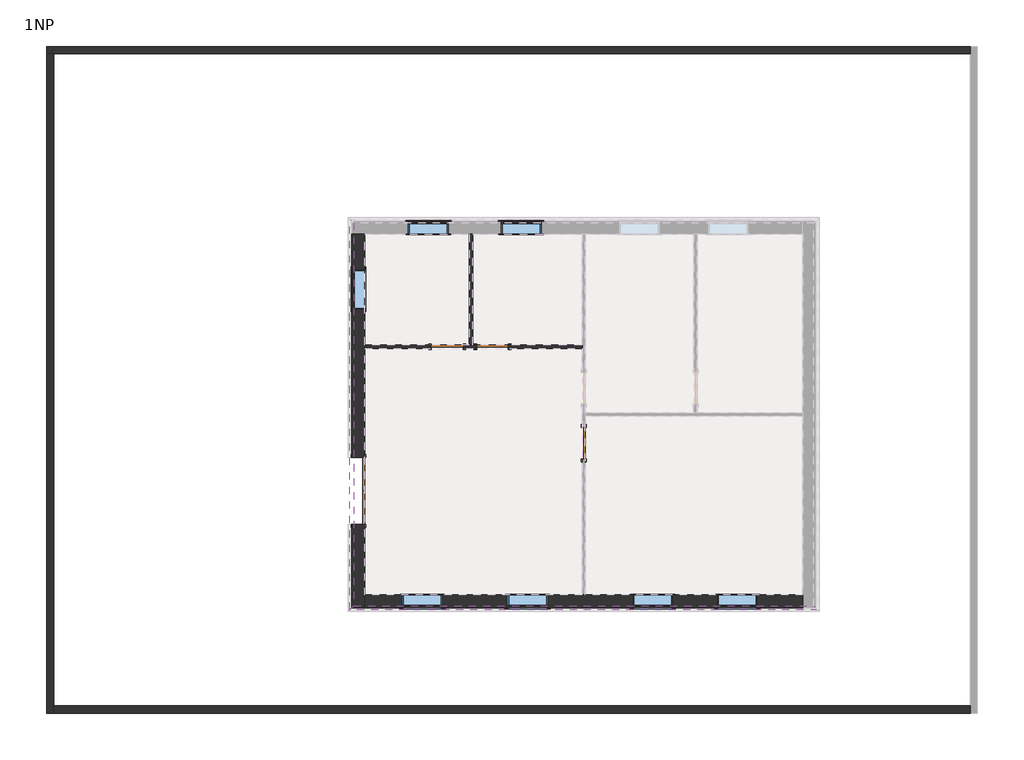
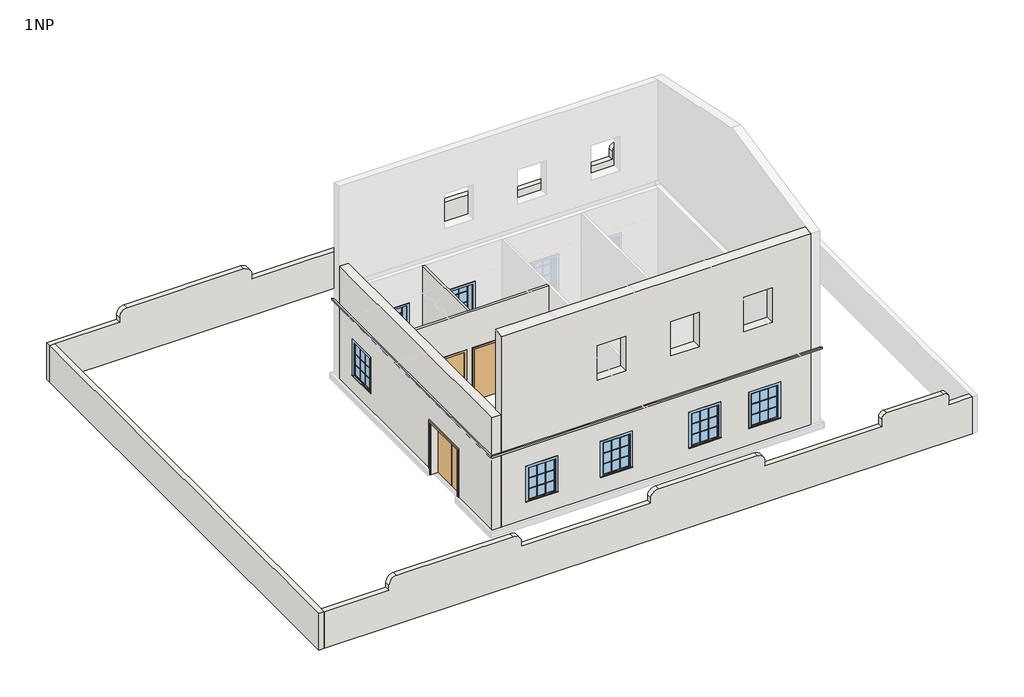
# One storey, part 1 of 2: 7 walls, 7 windows, 4 doors, 2 proxies.
"""IFC4 building model written with IfcOpenShell, lengths in millimetres."""

from ifc_helpers import new_model, si_unit, point, frame, frame_2d, origin, origin_with_axes, place, context, project, spatial, polyline, circle_curve, trimmed, segment, composite_curve, outline, extrude, faceted_brep, transform, mapped, element, save
from ifc_brep_helpers import plane_surface, cylinder_surface, advanced_brep
from components import m_double_flush_1830_x_2134mm_224c2c1d, m_single_flush_0864_x_2134mm_2f1c7364, m_single_flush_0864_x_2134mm_ac23343d, m_casement_3x3_with_trim_1100_x_1400mm_61373874

model = new_model("IFC4")

# Units and contexts
model_context = context("Model", 3, world=origin())
ifc_project = project(units=[si_unit("LENGTHUNIT", "METRE", prefix="MILLI")], contexts=[model_context])

# Site, building, storey
site = spatial("IfcSite", under=ifc_project)
building = spatial("IfcBuilding", under=site)
storey = spatial("IfcBuildingStorey", under=building, Name="1NP", Elevation=0.0)

# Proxies
placement = place(None, origin())
element("IfcBuildingElementProxy", 1, Name="Reveals", at=placement, inside=storey, context=model_context, shape_type="SweptSolid", body=[
    extrude(outline(polyline([(7810.3965437, -5113.8644596), (7912.8965437, -5216.3644596), (-4852.1034563, -5216.3644596), (-4749.6034563, -5113.8644596), (7810.3965437, -5113.8644596)])), frame((0.0, 0.0, 3200.0), z_axis=(0.0, 0.0, 1.0), x_axis=(1.0, 0.0, 0.0)), (0.0, 0.0, 1.0), 75.0),
])
element("IfcBuildingElementProxy", 2, Name="Reveals", at=placement, inside=storey, context=model_context, shape_type="SweptSolid", body=[
    extrude(outline(polyline([(-4749.6034563, -5113.8644596), (-4852.1034563, -5216.3644596), (-4852.1034563, 5448.6355404), (-4749.6034563, 5346.1355404), (-4749.6034563, -5113.8644596)])), frame((0.0, 0.0, 3200.0), z_axis=(0.0, 0.0, 1.0), x_axis=(1.0, 0.0, 0.0)), (0.0, 0.0, 1.0), 75.0),
])

# Doors
m_double_flush_1830_x_2134mm_shape = m_double_flush_1830_x_2134mm_224c2c1d(model_context)
element("IfcDoor", 3, ObjectType="M_Double-Flush : 1830 x 2134mm", at=placement, inside=storey, context=model_context, shape_type="MappedRepresentation", body=[
    mapped(m_double_flush_1830_x_2134mm_shape, transform((-4619.6034563, -1968.8644596, 0.0), x_axis=(0.0, -1.0, 0.0), y_axis=(1.0, 0.0, 0.0), z_axis=(0.0, 0.0, 1.0))),
])
m_single_flush_0864_x_2134mm_shape = m_single_flush_0864_x_2134mm_2f1c7364(model_context)
element("IfcDoor", 4, ObjectType="M_Single-Flush : 0864 x 2134mm", at=placement, inside=storey, context=model_context, shape_type="MappedRepresentation", body=[
    mapped(m_single_flush_0864_x_2134mm_shape, transform((-2194.3854659, 1966.1355404, 0.0), x_axis=(1.0, 0.0, 0.0), y_axis=(0.0, 1.0, 0.0), z_axis=(0.0, 0.0, 1.0))),
])
m_single_flush_0864_x_2134mm_2_shape = m_single_flush_0864_x_2134mm_ac23343d(model_context)
element("IfcDoor", 5, ObjectType="M_Single-Flush : 0864 x 2134mm", at=placement, inside=storey, context=model_context, shape_type="MappedRepresentation", body=[
    mapped(m_single_flush_0864_x_2134mm_2_shape, transform((1530.3965437, -665.8644596, 0.0), x_axis=(0.0, 1.0, 0.0), y_axis=(-1.0, 0.0, 0.0), z_axis=(0.0, 0.0, 1.0))),
])
element("IfcDoor", 6, ObjectType="M_Single-Flush : 0864 x 2134mm", at=placement, inside=storey, context=model_context, shape_type="MappedRepresentation", body=[
    mapped(m_single_flush_0864_x_2134mm_2_shape, transform((-962.6034563, 1966.1355404, 0.0), x_axis=(-1.0, 0.0, 0.0), y_axis=(0.0, -1.0, 0.0), z_axis=(0.0, 0.0, 1.0))),
])

# Walls
element("IfcWall", 7, ObjectType="Exterior - Brick on Mtl. Stud se základem", at=placement, inside=storey, context=model_context, shape_type="Brep", body=[
    faceted_brep([(-4444.6034563, 5041.1355404, 4800.0), (-4444.6034563, -5158.8644596, 4800.0), (-4444.6034563, -5158.8644596, 3275.0), (-4444.6034563, -5113.8644596, 3275.0), (-4444.6034563, -5113.8644596, 3200.0), (-4444.6034563, -5158.8644596, 3200.0), (-4444.6034563, -5158.8644596, 225.0), (-4444.6034563, -5158.8644596, 0.0), (-4444.6034563, -4808.8644596, 0.0), (-4444.6034563, -2883.8644596, 0.0), (-4444.6034563, -2883.8644596, 2134.0), (-4444.6034563, -1053.8644596, 2134.0), (-4444.6034563, -1053.8644596, 0.0), (-4444.6034563, 1921.1355404, 0.0), (-4444.6034563, 2011.1355404, 0.0), (-4444.6034563, 5041.1355404, 0.0), (-4444.6034563, 5041.1355404, 3700.0), (-4444.6034563, 2011.1355404, 3700.0), (-4444.6034563, 1921.1355404, 3700.0), (-4444.6034563, -4808.8644596, 3700.0), (-4444.6034563, -4973.8644596, 3700.0), (-4444.6034563, -4973.8644596, 4000.0), (-4444.6034563, -4808.8644596, 4000.0), (-4444.6034563, 5041.1355404, 4000.0), (-4444.6034563, 4078.6355404, 2315.0), (-4444.6034563, 4078.6355404, 915.0), (-4444.6034563, 2978.6355404, 915.0), (-4444.6034563, 2978.6355404, 2315.0), (-4794.6034563, -5158.8644596, 4800.0), (-4794.6034563, 5041.1355404, 4800.0), (-4794.6034563, 5041.1355404, 3275.0), (-4794.6034563, -5158.8644596, 3275.0), (-4794.6034563, -1053.8644596, 2134.0), (-4794.6034563, -2883.8644596, 2134.0), (-4794.6034563, -2883.8644596, 225.0), (-4794.6034563, -2883.8644596, 0.0), (-4794.6034563, -5158.8644596, 0.0), (-4794.6034563, -5158.8644596, 225.0), (-4794.6034563, -5158.8644596, 3200.0), (-4794.6034563, 5041.1355404, 3200.0), (-4794.6034563, 5041.1355404, 225.0), (-4794.6034563, 5041.1355404, 0.0), (-4794.6034563, -1053.8644596, 0.0), (-4794.6034563, -1053.8644596, 225.0), (-4794.6034563, 4078.6355404, 915.0), (-4794.6034563, 4078.6355404, 2315.0), (-4794.6034563, 2978.6355404, 2315.0), (-4794.6034563, 2978.6355404, 915.0), (-4749.6034563, 5041.1355404, 3200.0), (-4749.6034563, 5041.1355404, 3275.0), (-4609.6034563, 5041.1355404, 4000.0), (-4609.6034563, 5041.1355404, 3700.0), (-4609.6034563, -4973.8644596, 3700.0), (-4609.6034563, -4973.8644596, 4000.0), (-4749.6034563, -5113.8644596, 3275.0), (-4749.6034563, -5113.8644596, 3200.0)], [[[0, 1, 2, 3, 4, 5, 6, 7, 8, 9, 10, 11, 12, 13, 14, 15, 16, 17, 18, 19, 20, 21, 22, 23], [24, 25, 26, 27]], [[28, 29, 30, 31]], [[32, 33, 34, 35, 36, 37, 38, 39, 40, 41, 42, 43], [44, 45, 46, 47]], [[7, 36, 35, 9, 8]], [[41, 15, 14, 13, 12, 42]], [[1, 0, 29, 28]], [[1, 28, 31, 2]], [[36, 7, 6, 5, 38, 37]], [[15, 41, 40, 39, 48, 49, 30, 29, 0, 23, 50, 51, 16]], [[10, 9, 35, 34, 33]], [[11, 10, 33, 32]], [[12, 11, 32, 43, 42]], [[25, 24, 45, 44]], [[26, 25, 44, 47]], [[27, 26, 47, 46]], [[24, 27, 46, 45]], [[51, 52, 20, 19, 18, 17, 16]], [[21, 53, 50, 23, 22]], [[52, 53, 21, 20]], [[53, 52, 51, 50]], [[49, 54, 3, 2, 31, 30]], [[4, 55, 48, 39, 38, 5]], [[54, 55, 4, 3]], [[55, 54, 49, 48]]]),
])
element("IfcWall", 8, ObjectType="Exterior - Brick on Mtl. Stud se základem", at=placement, inside=storey, context=model_context, shape_type="Brep", body=[
    faceted_brep([(7505.3965437, -4808.8644596, 0.0), (1575.3965437, -4808.8644596, 0.0), (1485.3965437, -4808.8644596, 0.0), (-4444.6034563, -4808.8644596, 0.0), (-4444.6034563, -4808.8644596, 3700.0), (1485.3965437, -4808.8644596, 3700.0), (1575.3965437, -4808.8644596, 3700.0), (7505.3965437, -4808.8644596, 3700.0), (-3426.4827755, -4808.8644596, 2315.0), (-3426.4827755, -4808.8644596, 915.0), (-2326.4827755, -4808.8644596, 915.0), (-2326.4827755, -4808.8644596, 2315.0), (-551.4827755, -4808.8644596, 2315.0), (-551.4827755, -4808.8644596, 915.0), (548.5172245, -4808.8644596, 915.0), (548.5172245, -4808.8644596, 2315.0), (2862.144816, -4808.8644596, 2315.0), (2862.144816, -4808.8644596, 915.0), (3962.144816, -4808.8644596, 915.0), (3962.144816, -4808.8644596, 2315.0), (5167.8310203, -4808.8644596, 2315.0), (5167.8310203, -4808.8644596, 915.0), (6267.8310203, -4808.8644596, 915.0), (6267.8310203, -4808.8644596, 2315.0), (-4444.6034563, -4808.8644596, 8074.3947966), (555.3965437, -4808.8644596, 8074.3947966), (655.3965437, -4808.8644596, 8074.3947966), (3655.3965437, -4808.8644596, 8074.3947966), (3755.3965437, -4808.8644596, 8074.3947966), (7505.3965437, -4808.8644596, 8074.3947966), (7505.3965437, -4808.8644596, 4000.0), (3755.3965437, -4808.8644596, 4000.0), (3655.3965437, -4808.8644596, 4000.0), (655.3965437, -4808.8644596, 4000.0), (555.3965437, -4808.8644596, 4000.0), (-4444.6034563, -4808.8644596, 4000.0), (-727.1034563, -4808.8644596, 6315.0), (-727.1034563, -4808.8644596, 4915.0), (372.8965437, -4808.8644596, 4915.0), (372.8965437, -4808.8644596, 6315.0), (2097.8965437, -4808.8644596, 6315.0), (2097.8965437, -4808.8644596, 4915.0), (3197.8965437, -4808.8644596, 4915.0), (3197.8965437, -4808.8644596, 6315.0), (4922.8965437, -4808.8644596, 6315.0), (4922.8965437, -4808.8644596, 4915.0), (6022.8965437, -4808.8644596, 4915.0), (6022.8965437, -4808.8644596, 6315.0), (-4444.6034563, -5158.8644596, 0.0), (7505.3965437, -5158.8644596, 0.0), (7505.3965437, -5158.8644596, 225.0), (7505.3965437, -5158.8644596, 3200.0), (-4444.6034563, -5158.8644596, 3200.0), (-4444.6034563, -5158.8644596, 225.0), (-3426.4827755, -5158.8644596, 915.0), (-3426.4827755, -5158.8644596, 2315.0), (-2326.4827755, -5158.8644596, 2315.0), (-2326.4827755, -5158.8644596, 915.0), (-551.4827755, -5158.8644596, 915.0), (-551.4827755, -5158.8644596, 2315.0), (548.5172245, -5158.8644596, 2315.0), (548.5172245, -5158.8644596, 915.0), (2862.144816, -5158.8644596, 915.0), (2862.144816, -5158.8644596, 2315.0), (3962.144816, -5158.8644596, 2315.0), (3962.144816, -5158.8644596, 915.0), (5167.8310203, -5158.8644596, 915.0), (5167.8310203, -5158.8644596, 2315.0), (6267.8310203, -5158.8644596, 2315.0), (6267.8310203, -5158.8644596, 915.0), (7505.3965437, -5158.8644596, 8000.0), (-4444.6034563, -5158.8644596, 8000.0), (-4444.6034563, -5158.8644596, 4800.0), (-4444.6034563, -5158.8644596, 3275.0), (7505.3965437, -5158.8644596, 3275.0), (-727.1034563, -5158.8644596, 4915.0), (-727.1034563, -5158.8644596, 6315.0), (372.8965437, -5158.8644596, 6315.0), (372.8965437, -5158.8644596, 4915.0), (2097.8965437, -5158.8644596, 4915.0), (2097.8965437, -5158.8644596, 6315.0), (3197.8965437, -5158.8644596, 6315.0), (3197.8965437, -5158.8644596, 4915.0), (4922.8965437, -5158.8644596, 4915.0), (4922.8965437, -5158.8644596, 6315.0), (6022.8965437, -5158.8644596, 6315.0), (6022.8965437, -5158.8644596, 4915.0), (-4444.6034563, -5113.8644596, 3200.0), (-4444.6034563, -5113.8644596, 3275.0), (-4444.6034563, -4973.8644596, 4000.0), (-4444.6034563, -4973.8644596, 3700.0), (7505.3965437, -4973.8644596, 3700.0), (7505.3965437, -4973.8644596, 4000.0), (7505.3965437, -5113.8644596, 3275.0), (7505.3965437, -5113.8644596, 3200.0)], [[[0, 1, 2, 3, 4, 5, 6, 7], [8, 9, 10, 11], [12, 13, 14, 15], [16, 17, 18, 19], [20, 21, 22, 23]], [[24, 25, 26, 27, 28, 29, 30, 31, 32, 33, 34, 35], [36, 37, 38, 39], [40, 41, 42, 43], [44, 45, 46, 47]], [[48, 49, 50, 51, 52, 53], [54, 55, 56, 57], [58, 59, 60, 61], [62, 63, 64, 65], [66, 67, 68, 69]], [[70, 71, 72, 73, 74], [75, 76, 77, 78], [79, 80, 81, 82], [83, 84, 85, 86]], [[3, 2, 1, 0, 49, 48]], [[3, 48, 53, 52, 87, 88, 73, 72, 71, 24, 35, 89, 90, 4]], [[49, 0, 7, 91, 92, 30, 29, 70, 74, 93, 94, 51, 50]], [[29, 28, 27, 26, 25, 24, 71, 70]], [[9, 8, 55, 54]], [[10, 9, 54, 57]], [[11, 10, 57, 56]], [[8, 11, 56, 55]], [[13, 12, 59, 58]], [[14, 13, 58, 61]], [[15, 14, 61, 60]], [[12, 15, 60, 59]], [[17, 16, 63, 62]], [[18, 17, 62, 65]], [[19, 18, 65, 64]], [[16, 19, 64, 63]], [[21, 20, 67, 66]], [[22, 21, 66, 69]], [[23, 22, 69, 68]], [[20, 23, 68, 67]], [[37, 36, 76, 75]], [[38, 37, 75, 78]], [[39, 38, 78, 77]], [[36, 39, 77, 76]], [[41, 40, 80, 79]], [[42, 41, 79, 82]], [[43, 42, 82, 81]], [[40, 43, 81, 80]], [[45, 44, 84, 83]], [[46, 45, 83, 86]], [[47, 46, 86, 85]], [[44, 47, 85, 84]], [[90, 91, 7, 6, 5, 4]], [[92, 89, 35, 34, 33, 32, 31, 30]], [[91, 90, 89, 92]], [[88, 93, 74, 73]], [[94, 87, 52, 51]], [[87, 94, 93, 88]]]),
])
element("IfcWall", 9, ObjectType="Generic - 200mm", at=placement, inside=storey, context=model_context, shape_type="AdvancedBrep", body=[
    advanced_brep(
    [(-13128.4801076, 9963.4874545, 0.0), (-12928.4801076, 9963.4874545, 0.0), (12071.5198924, 9963.4874545, 0.0), (12071.5198924, 9963.4874545, 1500.0), (11171.5198924, 9963.4874545, 1500.0), (11171.5198924, 9963.4874545, 1800.0), (10971.5198924, 9963.4874545, 2000.0), (8771.5198924, 9963.4874545, 2000.0), (8571.5198924, 9963.4874545, 1800.0), (8571.5198924, 9963.4874545, 1500.0), (4071.5198924, 9963.4874545, 1500.0), (4071.5198924, 9963.4874545, 1700.0), (3771.5198924, 9963.4874545, 2000.0), (-28.4801076, 9963.4874545, 2000.0), (-328.4801076, 9963.4874545, 1700.0), (-328.4801076, 9963.4874545, 1500.0), (-5328.4801076, 9963.4874545, 1500.0), (-5328.4801076, 9963.4874545, 1700.0), (-5628.4801076, 9963.4874545, 2000.0), (-10128.4801076, 9963.4874545, 2000.0), (-10428.4801076, 9963.4874545, 1700.0), (-10428.4801076, 9963.4874545, 1500.0), (-12928.4801076, 9963.4874545, 1500.0), (-13128.4801076, 9963.4874545, 1500.0), (-13128.4801076, 10163.4874545, 0.0), (-13128.4801076, 10163.4874545, 1500.0), (-10428.4801076, 10163.4874545, 1500.0), (-10428.4801076, 10163.4874545, 1700.0), (-10128.4801076, 10163.4874545, 2000.0), (-5628.4801076, 10163.4874545, 2000.0), (-5328.4801076, 10163.4874545, 1700.0), (-5328.4801076, 10163.4874545, 1500.0), (-328.4801076, 10163.4874545, 1500.0), (-328.4801076, 10163.4874545, 1700.0), (-28.4801076, 10163.4874545, 2000.0), (3771.5198924, 10163.4874545, 2000.0), (4071.5198924, 10163.4874545, 1700.0), (4071.5198924, 10163.4874545, 1500.0), (8571.5198924, 10163.4874545, 1500.0), (8571.5198924, 10163.4874545, 1800.0), (8771.5198924, 10163.4874545, 2000.0), (10971.5198924, 10163.4874545, 2000.0), (11171.5198924, 10163.4874545, 1800.0), (11171.5198924, 10163.4874545, 1500.0), (12071.5198924, 10163.4874545, 1500.0), (12071.5198924, 10163.4874545, 0.0)],
    [
        (0, 1),
        (1, 2),
        (2, 3),
        (3, 4),
        (4, 5),
        (5, 6, circle_curve(frame((10971.5198924, 9963.4874545, 1800.0), z_axis=(0.0, -1.0, 0.0), x_axis=(-1.0, 0.0, 0.0)), 200.0)),
        (6, 7),
        (7, 8, circle_curve(frame((8771.5198924, 9963.4874545, 1800.0), z_axis=(0.0, -1.0, 0.0), x_axis=(-1.0, 0.0, 0.0)), 200.0)),
        (8, 9),
        (9, 10),
        (10, 11),
        (11, 12, circle_curve(frame((3771.5198924, 9963.4874545, 1700.0), z_axis=(0.0, -1.0, 0.0), x_axis=(-1.0, 0.0, 0.0)), 300.0)),
        (12, 13),
        (13, 14, circle_curve(frame((-28.4801076, 9963.4874545, 1700.0), z_axis=(0.0, -1.0, 0.0), x_axis=(-1.0, 0.0, 0.0)), 300.0)),
        (14, 15),
        (15, 16),
        (16, 17),
        (17, 18, circle_curve(frame((-5628.4801076, 9963.4874545, 1700.0), z_axis=(0.0, -1.0, 0.0), x_axis=(-1.0, 0.0, 0.0)), 300.0)),
        (18, 19),
        (19, 20, circle_curve(frame((-10128.4801076, 9963.4874545, 1700.0), z_axis=(0.0, -1.0, 0.0), x_axis=(-1.0, 0.0, 0.0)), 300.0)),
        (20, 21),
        (21, 22),
        (22, 23),
        (23, 0),
        (24, 25),
        (25, 26),
        (26, 27),
        (27, 28, circle_curve(frame((-10128.4801076, 10163.4874545, 1700.0), z_axis=(0.0, 1.0, 0.0), x_axis=(-1.0, 0.0, 0.0)), 300.0)),
        (28, 29),
        (29, 30, circle_curve(frame((-5628.4801076, 10163.4874545, 1700.0), z_axis=(0.0, 1.0, 0.0), x_axis=(-1.0, 0.0, 0.0)), 300.0)),
        (30, 31),
        (31, 32),
        (32, 33),
        (33, 34, circle_curve(frame((-28.4801076, 10163.4874545, 1700.0), z_axis=(0.0, 1.0, 0.0), x_axis=(-1.0, 0.0, 0.0)), 300.0)),
        (34, 35),
        (35, 36, circle_curve(frame((3771.5198924, 10163.4874545, 1700.0), z_axis=(0.0, 1.0, 0.0), x_axis=(-1.0, 0.0, 0.0)), 300.0)),
        (36, 37),
        (37, 38),
        (38, 39),
        (39, 40, circle_curve(frame((8771.5198924, 10163.4874545, 1800.0), z_axis=(0.0, 1.0, 0.0), x_axis=(-1.0, 0.0, 0.0)), 200.0)),
        (40, 41),
        (41, 42, circle_curve(frame((10971.5198924, 10163.4874545, 1800.0), z_axis=(0.0, 1.0, 0.0), x_axis=(-1.0, 0.0, 0.0)), 200.0)),
        (42, 43),
        (43, 44),
        (44, 45),
        (45, 24),
        (0, 24),
        (45, 2),
        (3, 44),
        (43, 4),
        (42, 5),
        (41, 6),
        (40, 7),
        (39, 8),
        (38, 9),
        (37, 10),
        (36, 11),
        (35, 12),
        (34, 13),
        (33, 14),
        (32, 15),
        (31, 16),
        (30, 17),
        (29, 18),
        (28, 19),
        (27, 20),
        (26, 21),
        (25, 23),
    ],
    [
        plane_surface(frame((-13028.4801076, 9963.4874545, 0.0), z_axis=(0.0, -1.0, 0.0), x_axis=(1.0, 0.0, 0.0))),
        plane_surface(frame((-13028.4801076, 10163.4874545, 0.0), z_axis=(0.0, 1.0, 0.0), x_axis=(-1.0, 0.0, 0.0))),
        plane_surface(frame((-13028.4801076, 9963.4874545, 0.0), z_axis=(0.0, 0.0, -1.0), x_axis=(0.0, 1.0, 0.0))),
        plane_surface(frame((12171.5198924, 9963.4874545, 1500.0), z_axis=(0.0, 0.0, 1.0), x_axis=(0.0, 1.0, 0.0))),
        plane_surface(frame((11171.5198924, 9963.4874545, 1500.0), z_axis=(1.0, 0.0, 0.0), x_axis=(0.0, 1.0, 0.0))),
        cylinder_surface(frame((10971.5198924, 10163.4874545, 1800.0), z_axis=(0.0, -1.0, 0.0), x_axis=(-1.0, 0.0, 0.0)), 200.0),
        plane_surface(frame((10971.5198924, 9963.4874545, 2000.0), z_axis=(0.0, 0.0, 1.0), x_axis=(0.0, 1.0, 0.0))),
        cylinder_surface(frame((8771.5198924, 10163.4874545, 1800.0), z_axis=(0.0, -1.0, 0.0), x_axis=(-1.0, 0.0, 0.0)), 200.0),
        plane_surface(frame((8571.5198924, 9963.4874545, 1800.0), z_axis=(-1.0, 0.0, 0.0), x_axis=(0.0, 1.0, 0.0))),
        plane_surface(frame((8571.5198924, 9963.4874545, 1500.0), z_axis=(0.0, 0.0, 1.0), x_axis=(0.0, 1.0, 0.0))),
        plane_surface(frame((4071.5198924, 9963.4874545, 1500.0), z_axis=(1.0, 0.0, 0.0), x_axis=(0.0, 1.0, 0.0))),
        cylinder_surface(frame((3771.5198924, 10163.4874545, 1700.0), z_axis=(0.0, -1.0, 0.0), x_axis=(-1.0, 0.0, 0.0)), 300.0),
        plane_surface(frame((3771.5198924, 9963.4874545, 2000.0), z_axis=(0.0, 0.0, 1.0), x_axis=(0.0, 1.0, 0.0))),
        cylinder_surface(frame((-28.4801076, 10163.4874545, 1700.0), z_axis=(0.0, -1.0, 0.0), x_axis=(-1.0, 0.0, 0.0)), 300.0),
        plane_surface(frame((-328.4801076, 9963.4874545, 1700.0), z_axis=(-1.0, 0.0, 0.0), x_axis=(0.0, 1.0, 0.0))),
        plane_surface(frame((-328.4801076, 9963.4874545, 1500.0), z_axis=(0.0, 0.0, 1.0), x_axis=(0.0, 1.0, 0.0))),
        plane_surface(frame((-5328.4801076, 9963.4874545, 1500.0), z_axis=(1.0, 0.0, 0.0), x_axis=(0.0, 1.0, 0.0))),
        cylinder_surface(frame((-5628.4801076, 10163.4874545, 1700.0), z_axis=(0.0, -1.0, 0.0), x_axis=(-1.0, 0.0, 0.0)), 300.0),
        plane_surface(frame((-5628.4801076, 9963.4874545, 2000.0), z_axis=(0.0, 0.0, 1.0), x_axis=(0.0, 1.0, 0.0))),
        cylinder_surface(frame((-10128.4801076, 10163.4874545, 1700.0), z_axis=(0.0, -1.0, 0.0), x_axis=(-1.0, 0.0, 0.0)), 300.0),
        plane_surface(frame((-10428.4801076, 9963.4874545, 1700.0), z_axis=(-1.0, 0.0, 0.0), x_axis=(0.0, 1.0, 0.0))),
        plane_surface(frame((-10428.4801076, 9963.4874545, 1500.0), z_axis=(0.0, 0.0, 1.0), x_axis=(0.0, 1.0, 0.0))),
        plane_surface(frame((-13128.4801076, 9666.9327633, 0.0), z_axis=(-1.0, 0.0, 0.0), x_axis=(0.0, -1.0, 0.0))),
        plane_surface(frame((12071.5198924, 10091.701908, 0.0), z_axis=(1.0, 0.0, 0.0), x_axis=(0.0, -1.0, 0.0))),
    ],
    [
        (0, [[1, 2, 3, 4, 5, 6, 7, 8, 9, 10, 11, 12, 13, 14, 15, 16, 17, 18, 19, 20, 21, 22, 23, 24]]),
        (1, [[25, 26, 27, 28, 29, 30, 31, 32, 33, 34, 35, 36, 37, 38, 39, 40, 41, 42, 43, 44, 45, 46]]),
        (2, [[-2, -1, 47, -46, 48]]),
        (3, [[-4, 49, -44, 50]]),
        (4, [[-5, -50, -43, 51]]),
        (5, [[-6, -51, -42, 52]]),
        (6, [[-7, -52, -41, 53]]),
        (7, [[-8, -53, -40, 54]]),
        (8, [[-9, -54, -39, 55]]),
        (9, [[-10, -55, -38, 56]]),
        (10, [[-11, -56, -37, 57]]),
        (11, [[-12, -57, -36, 58]]),
        (12, [[-13, -58, -35, 59]]),
        (13, [[-14, -59, -34, 60]]),
        (14, [[-15, -60, -33, 61]]),
        (15, [[-16, -61, -32, 62]]),
        (16, [[-17, -62, -31, 63]]),
        (17, [[-18, -63, -30, 64]]),
        (18, [[-19, -64, -29, 65]]),
        (19, [[-20, -65, -28, 66]]),
        (20, [[-21, -66, -27, 67]]),
        (21, [[-23, -22, -67, -26, 68]]),
        (22, [[-24, -68, -25, -47]]),
        (23, [[-3, -48, -45, -49]]),
    ],
),
])
element("IfcWall", 10, ObjectType="Generic - 200mm", at=placement, inside=storey, context=model_context, shape_type="Brep", body=[
    faceted_brep([(-12928.4801076, -8036.5125455, 0.0), (-12928.4801076, -7836.5125455, 0.0), (-12928.4801076, 9963.4874545, 0.0), (-12928.4801076, 9963.4874545, 1500.0), (-12928.4801076, -7836.5125455, 1500.0), (-12928.4801076, -8036.5125455, 1500.0), (-13128.4801076, -8036.5125455, 0.0), (-13128.4801076, -8036.5125455, 1500.0), (-13128.4801076, 9963.4874545, 1500.0), (-13128.4801076, 9963.4874545, 0.0)], [[[0, 1, 2, 3, 4, 5]], [[6, 7, 8, 9]], [[2, 1, 0, 6, 9]], [[5, 4, 3, 8, 7]], [[0, 5, 7, 6]], [[3, 2, 9, 8]]]),
])
element("IfcWall", 11, ObjectType="Generic - 200mm", at=placement, inside=storey, context=model_context, shape_type="SweptSolid", body=[
    extrude(outline(composite_curve([segment(polyline([(0.0, -12928.4801076), (0.0, 12071.5198924), (1500.0, 12071.5198924), (1500.0, 11171.5198924), (1800.0, 11171.5198924)]), True, "CONTINUOUS"), segment(trimmed(circle_curve(frame_2d((1800.0, 10971.5198924)), 200.0), [point((1800.0, 11171.5198924))], [point((2000.0, 10971.5198924))], False, "CARTESIAN"), True, "CONTINUOUS"), segment(polyline([(2000.0, 10971.5198924), (2000.0, 8771.5198924)]), True, "CONTINUOUS"), segment(trimmed(circle_curve(frame_2d((1800.0, 8771.5198924)), 200.0), [point((2000.0, 8771.5198924))], [point((1800.0, 8571.5198924))], False, "CARTESIAN"), True, "CONTINUOUS"), segment(polyline([(1800.0, 8571.5198924), (1500.0, 8571.5198924), (1500.0, 4071.5198924), (1700.0, 4071.5198924)]), True, "CONTINUOUS"), segment(trimmed(circle_curve(frame_2d((1700.0, 3771.5198924)), 300.0), [point((1700.0, 4071.5198924))], [point((2000.0, 3771.5198924))], False, "CARTESIAN"), True, "CONTINUOUS"), segment(polyline([(2000.0, 3771.5198924), (2000.0, -28.4801076)]), True, "CONTINUOUS"), segment(trimmed(circle_curve(frame_2d((1700.0, -28.4801076)), 300.0), [point((2000.0, -28.4801076))], [point((1700.0, -328.4801076))], False, "CARTESIAN"), True, "CONTINUOUS"), segment(polyline([(1700.0, -328.4801076), (1500.0, -328.4801076), (1500.0, -5328.4801076), (1700.0, -5328.4801076)]), True, "CONTINUOUS"), segment(trimmed(circle_curve(frame_2d((1700.0, -5628.4801076)), 300.0), [point((1700.0, -5328.4801076))], [point((2000.0, -5628.4801076))], False, "CARTESIAN"), True, "CONTINUOUS"), segment(polyline([(2000.0, -5628.4801076), (2000.0, -10128.4801076)]), True, "CONTINUOUS"), segment(trimmed(circle_curve(frame_2d((1700.0, -10128.4801076)), 300.0), [point((2000.0, -10128.4801076))], [point((1700.0, -10428.4801076))], False, "CARTESIAN"), True, "CONTINUOUS"), segment(polyline([(1700.0, -10428.4801076), (1500.0, -10428.4801076), (1500.0, -12928.4801076), (0.0, -12928.4801076)]), True, "CONTINUOUS")], self_intersect=False)), frame((0.0, -8036.5125455, 0.0), z_axis=(0.0, 1.0, 0.0), x_axis=(0.0, 0.0, 1.0)), (0.0, 0.0, 1.0), 200.0),
])
element("IfcWall", 12, ObjectType="Generic - 90mm Brick", at=placement, inside=storey, context=model_context, shape_type="Brep", body=[
    faceted_brep([(-1394.6034563, 2011.1355404, 0.0), (-1499.6034563, 2011.1355404, 0.0), (-1589.6034563, 2011.1355404, 0.0), (-1762.3854659, 2011.1355404, 0.0), (-1762.3854659, 2011.1355404, 2134.0), (-2626.3854659, 2011.1355404, 2134.0), (-2626.3854659, 2011.1355404, 0.0), (-4444.6034563, 2011.1355404, 0.0), (-4444.6034563, 2011.1355404, 3700.0), (-1589.6034563, 2011.1355404, 3700.0), (-1499.6034563, 2011.1355404, 3700.0), (1485.3965437, 2011.1355404, 3700.0), (1485.3965437, 2011.1355404, 0.0), (-530.6034563, 2011.1355404, 0.0), (-530.6034563, 2011.1355404, 2134.0), (-1394.6034563, 2011.1355404, 2134.0), (-1762.3854659, 1921.1355404, 2134.0), (-1762.3854659, 1921.1355404, 0.0), (-1394.6034563, 1921.1355404, 0.0), (-1394.6034563, 1921.1355404, 2134.0), (-530.6034563, 1921.1355404, 2134.0), (-530.6034563, 1921.1355404, 0.0), (1485.3965437, 1921.1355404, 0.0), (1485.3965437, 1921.1355404, 3700.0), (-4444.6034563, 1921.1355404, 3700.0), (-4444.6034563, 1921.1355404, 0.0), (-2626.3854659, 1921.1355404, 0.0), (-2626.3854659, 1921.1355404, 2134.0)], [[[0, 1, 2, 3, 4, 5, 6, 7, 8, 9, 10, 11, 12, 13, 14, 15]], [[16, 17, 18, 19, 20, 21, 22, 23, 24, 25, 26, 27]], [[18, 17, 3, 2, 1, 0]], [[13, 12, 22, 21]], [[26, 25, 7, 6]], [[8, 7, 25, 24]], [[12, 11, 23, 22]], [[11, 10, 9, 8, 24, 23]], [[19, 18, 0, 15]], [[20, 19, 15, 14]], [[21, 20, 14, 13]], [[4, 3, 17, 16]], [[5, 4, 16, 27]], [[6, 5, 27, 26]]]),
])
element("IfcWall", 13, ObjectType="Generic - 90mm Brick", at=placement, inside=storey, context=model_context, shape_type="SweptSolid", body=[
    extrude(outline(polyline([(-1499.6034563, 5041.1355404), (-1499.6034563, 2011.1355404), (-1589.6034563, 2011.1355404), (-1589.6034563, 5041.1355404), (-1499.6034563, 5041.1355404)])), origin_with_axes(), (0.0, 0.0, 1.0), 3700.0),
])

# Windows
m_casement_3x3_with_trim_1100_x_1400mm_shape = m_casement_3x3_with_trim_1100_x_1400mm_61373874(model_context)
element("IfcWindow", 14, ObjectType="M_Casement 3x3 with Trim : 1100 x 1400mm", at=placement, inside=storey, context=model_context, shape_type="MappedRepresentation", body=[
    mapped(m_casement_3x3_with_trim_1100_x_1400mm_shape, transform((-2876.4827755, -4983.8644596, 0.0), x_axis=(-1.0, 0.0, 0.0), y_axis=(0.0, -1.0, 0.0), z_axis=(0.0, 0.0, 1.0))),
])
element("IfcWindow", 15, ObjectType="M_Casement 3x3 with Trim : 1100 x 1400mm", at=placement, inside=storey, context=model_context, shape_type="MappedRepresentation", body=[
    mapped(m_casement_3x3_with_trim_1100_x_1400mm_shape, transform((-1.4827755, -4983.8644596, 0.0), x_axis=(-1.0, 0.0, 0.0), y_axis=(0.0, -1.0, 0.0), z_axis=(0.0, 0.0, 1.0))),
])
element("IfcWindow", 16, ObjectType="M_Casement 3x3 with Trim : 1100 x 1400mm", at=placement, inside=storey, context=model_context, shape_type="MappedRepresentation", body=[
    mapped(m_casement_3x3_with_trim_1100_x_1400mm_shape, transform((3412.144816, -4983.8644596, 0.0), x_axis=(-1.0, 0.0, 0.0), y_axis=(0.0, -1.0, 0.0), z_axis=(0.0, 0.0, 1.0))),
])
element("IfcWindow", 17, ObjectType="M_Casement 3x3 with Trim : 1100 x 1400mm", at=placement, inside=storey, context=model_context, shape_type="MappedRepresentation", body=[
    mapped(m_casement_3x3_with_trim_1100_x_1400mm_shape, transform((5717.8310203, -4983.8644596, 0.0), x_axis=(-1.0, 0.0, 0.0), y_axis=(0.0, -1.0, 0.0), z_axis=(0.0, 0.0, 1.0))),
])
element("IfcWindow", 18, ObjectType="M_Casement 3x3 with Trim : 1100 x 1400mm", at=placement, inside=storey, context=model_context, shape_type="MappedRepresentation", body=[
    mapped(m_casement_3x3_with_trim_1100_x_1400mm_shape, transform((-177.1034563, 5216.1355404, 0.0), x_axis=(1.0, 0.0, 0.0), y_axis=(0.0, 1.0, 0.0), z_axis=(0.0, 0.0, 1.0))),
])
element("IfcWindow", 19, ObjectType="M_Casement 3x3 with Trim : 1100 x 1400mm", at=placement, inside=storey, context=model_context, shape_type="MappedRepresentation", body=[
    mapped(m_casement_3x3_with_trim_1100_x_1400mm_shape, transform((-2712.1034563, 5216.1355404, 0.0), x_axis=(1.0, 0.0, 0.0), y_axis=(0.0, 1.0, 0.0), z_axis=(0.0, 0.0, 1.0))),
])
element("IfcWindow", 20, ObjectType="M_Casement 3x3 with Trim : 1100 x 1400mm", at=placement, inside=storey, context=model_context, shape_type="MappedRepresentation", body=[
    mapped(m_casement_3x3_with_trim_1100_x_1400mm_shape, transform((-4619.6034563, 3528.6355404, 0.0), x_axis=(0.0, 1.0, 0.0), y_axis=(-1.0, 0.0, 0.0), z_axis=(0.0, 0.0, 1.0))),
])

save(model, "model.ifc")
